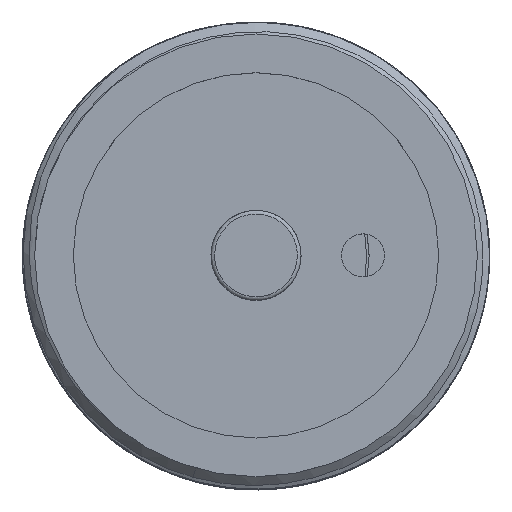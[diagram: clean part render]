
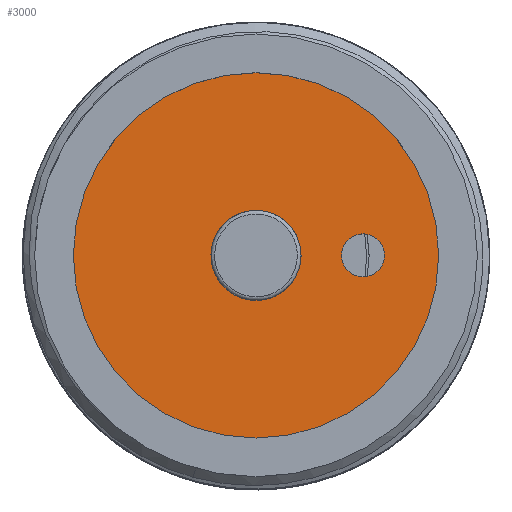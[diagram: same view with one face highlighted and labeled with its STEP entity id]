
A CAD part, top view. The second image highlights one B-rep face of the part: STEP entity #3000.
In plain terms, the highlighted planar face has unit normal (0, 0, 1).
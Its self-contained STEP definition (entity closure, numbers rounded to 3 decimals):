
#2832=PLANE('',#6135);
#3000=ADVANCED_FACE('',(#3289,#3290,#3291),#2832,.F.);
#3289=FACE_BOUND('',#3379,.T.);
#3290=FACE_BOUND('',#3380,.T.);
#3291=FACE_BOUND('',#3381,.T.);
#3379=EDGE_LOOP('',(#3685));
#3380=EDGE_LOOP('',(#3686));
#3381=EDGE_LOOP('',(#3687));
#3685=ORIENTED_EDGE('',*,*,#5417,.F.);
#3686=ORIENTED_EDGE('',*,*,#5419,.F.);
#3687=ORIENTED_EDGE('',*,*,#5421,.F.);
#4972=VERTEX_POINT('',#7373);
#4974=VERTEX_POINT('',#7378);
#4976=VERTEX_POINT('',#7383);
#5417=EDGE_CURVE('',#4972,#4972,#6066,.T.);
#5419=EDGE_CURVE('',#4974,#4974,#6068,.T.);
#5421=EDGE_CURVE('',#4976,#4976,#6070,.T.);
#6066=CIRCLE('',#6127,1.75);
#6068=CIRCLE('',#6130,2.5);
#6070=CIRCLE('',#6133,15.5);
#6127=AXIS2_PLACEMENT_3D('',#7372,#6389,#6390);
#6130=AXIS2_PLACEMENT_3D('',#7377,#6395,#6396);
#6133=AXIS2_PLACEMENT_3D('',#7382,#6401,#6402);
#6135=AXIS2_PLACEMENT_3D('',#7385,#6405,#6406);
#6389=DIRECTION('',(0.,0.,1.));
#6390=DIRECTION('',(0.,-1.,0.));
#6395=DIRECTION('',(0.,0.,1.));
#6396=DIRECTION('',(0.,-1.,0.));
#6401=DIRECTION('',(0.,0.,-1.));
#6402=DIRECTION('',(0.,-1.,0.));
#6405=DIRECTION('',(0.,0.,-1.));
#6406=DIRECTION('',(0.,1.,0.));
#7372=CARTESIAN_POINT('',(32.096,24.6,0.));
#7373=CARTESIAN_POINT('',(32.096,22.85,0.));
#7377=CARTESIAN_POINT('',(23.396,24.6,0.));
#7378=CARTESIAN_POINT('',(23.396,22.1,0.));
#7382=CARTESIAN_POINT('',(23.396,24.6,0.));
#7383=CARTESIAN_POINT('',(23.396,9.1,0.));
#7385=CARTESIAN_POINT('',(23.396,24.6,0.));
